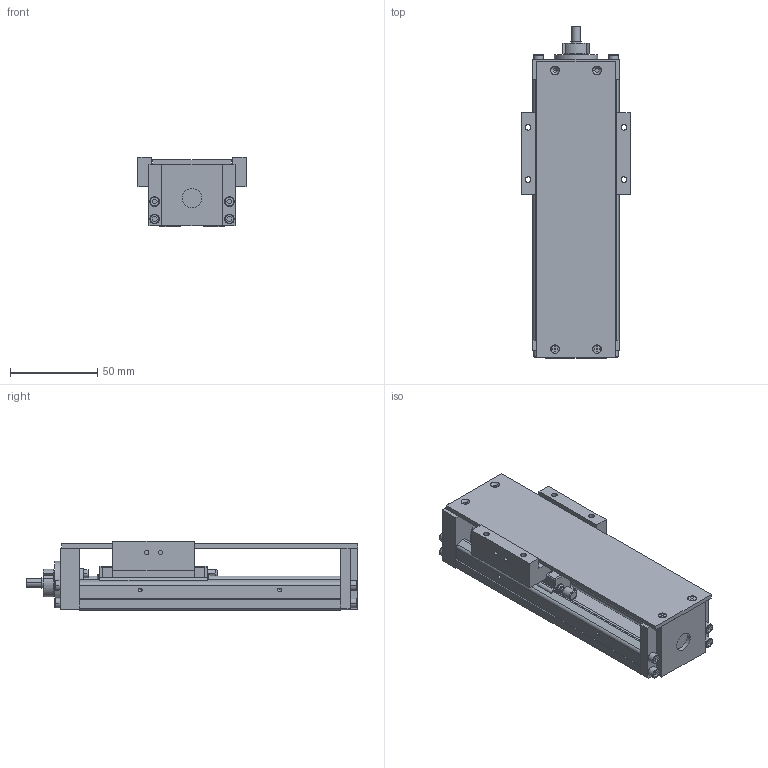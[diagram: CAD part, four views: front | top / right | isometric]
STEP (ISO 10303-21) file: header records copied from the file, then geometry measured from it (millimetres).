
FILE_DESCRIPTION(('no description'),'unknown implementation level');
FILE_NAME('KK5002P150A1H0C00_FILE_18.stp',' ',('HIWIN GmbH'),('CADClick - KiM GmbH - www.kimweb.de'),'unknown preprocess','ACIS','unknown authorization');
FILE_SCHEMA(('automotive_design'));
Length unit declared in the file: millimetre
Products named in the file (2): KK50_FILE; KK5002P150A1H0C00_FILE
Bounding box: 62 x 190.5 x 40 mm (x, y, z)
Volume: 199258.8 mm3; surface area: 76030.6 mm2
Topology: 2 solids, 14 shells, 788 faces, 1954 edges, 1237 vertices
Faces by surface type: plane 471, cylinder 217, cone 58, torus 42
Entity records: 45758 total; most frequent: CARTESIAN_POINT 4451, DIRECTION 4090, STYLED_ITEM 3955, PRESENTATION_STYLE_ASSIGNMENT 3955, COLOUR_RGB 3955, ORIENTED_EDGE 3856, EDGE_CURVE 1928, CURVE_STYLE 1928
